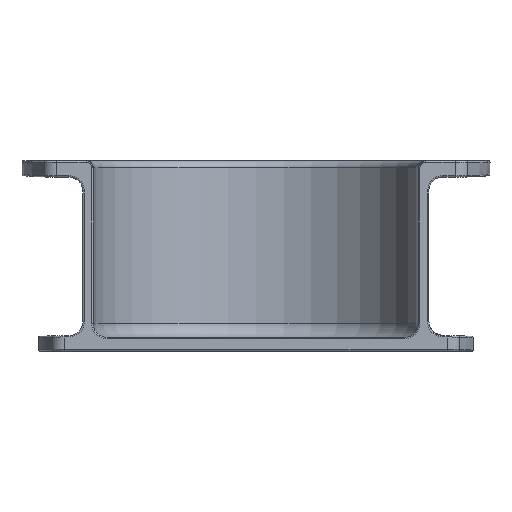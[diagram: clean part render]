
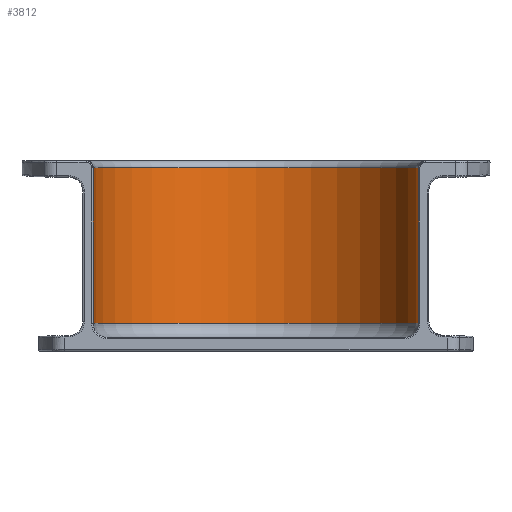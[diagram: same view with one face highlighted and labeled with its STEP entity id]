
A CAD part, front view. The second image highlights one B-rep face of the part: STEP entity #3812.
In plain terms, the highlighted cylindrical face has radius 29.845 mm (diameter 59.69 mm), a partial arc.
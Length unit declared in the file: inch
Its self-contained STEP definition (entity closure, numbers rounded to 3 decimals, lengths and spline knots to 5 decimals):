
#879=CARTESIAN_POINT('',(-1.17496,0.00992,1.325));
#900=DIRECTION('',(0.,0.,-1.));
#901=VECTOR('',#900,1.125);
#902=CARTESIAN_POINT('',(-1.17496,0.00992,1.325));
#903=LINE('',#902,#901);
#904=CARTESIAN_POINT('',(0.,0.,1.325));
#905=DIRECTION('',(0.,0.,-1.));
#906=DIRECTION('',(-1.,0.008,0.));
#907=AXIS2_PLACEMENT_3D('',#904,#905,#906);
#909=DIRECTION('',(0.,0.,1.));
#910=VECTOR('',#909,1.125);
#911=CARTESIAN_POINT('',(1.17496,0.00992,0.2));
#912=LINE('',#911,#910);
#913=CARTESIAN_POINT('',(0.,0.,0.2));
#914=DIRECTION('',(0.,0.,-1.));
#915=DIRECTION('',(-1.,0.008,0.));
#916=AXIS2_PLACEMENT_3D('',#913,#914,#915);
#948=CARTESIAN_POINT('',(1.17496,0.00992,0.2));
#2130=VERTEX_POINT('',#879);
#2132=CARTESIAN_POINT('',(-1.17496,0.00992,
0.2));
#2133=VERTEX_POINT('',#2132);
#2142=VERTEX_POINT('',#948);
#2144=CARTESIAN_POINT('',(1.17496,0.00992,1.325));
#2145=VERTEX_POINT('',#2144);
#3799=CARTESIAN_POINT('',(0.,0.,1.375));
#3800=DIRECTION('',(0.,0.,1.));
#3801=DIRECTION('',(1.,0.,0.));
#3802=AXIS2_PLACEMENT_3D('',#3799,#3800,#3801);
#3803=CYLINDRICAL_SURFACE('',#3802,1.175);
#3804=ORIENTED_EDGE('',*,*,#3790,.F.);
#3805=ORIENTED_EDGE('',*,*,#3735,.T.);
#3807=ORIENTED_EDGE('',*,*,#3806,.F.);
#3809=ORIENTED_EDGE('',*,*,#3808,.F.);
#3810=EDGE_LOOP('',(#3804,#3805,#3807,#3809));
#3811=FACE_OUTER_BOUND('',#3810,.F.);
#3812=ADVANCED_FACE('',(#3811),#3803,.F.);
#908=CIRCLE('',#907,1.175);
#917=CIRCLE('',#916,1.175);
#3735=EDGE_CURVE('',#2130,#2145,#908,.T.);
#3790=EDGE_CURVE('',#2130,#2133,#903,.T.);
#3806=EDGE_CURVE('',#2142,#2145,#912,.T.);
#3808=EDGE_CURVE('',#2133,#2142,#917,.T.);
